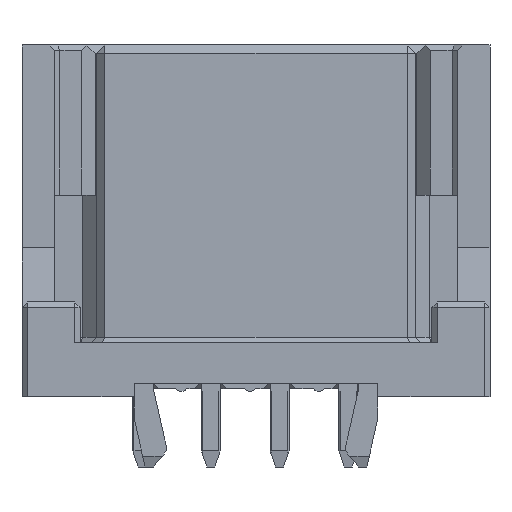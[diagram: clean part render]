
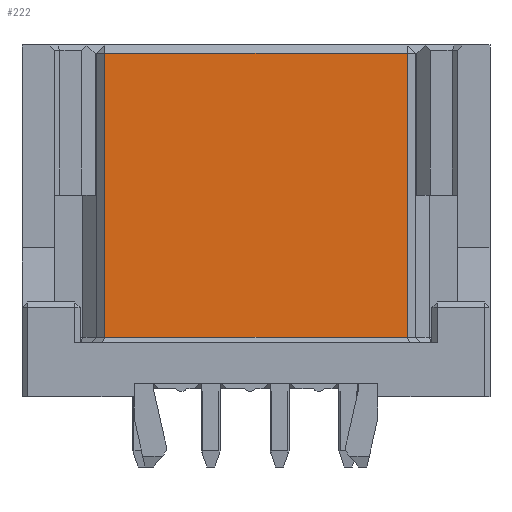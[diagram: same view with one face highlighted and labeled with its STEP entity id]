
A CAD part, front view. The second image highlights one B-rep face of the part: STEP entity #222.
In plain terms, the highlighted planar face has unit normal (0, -1, 0).
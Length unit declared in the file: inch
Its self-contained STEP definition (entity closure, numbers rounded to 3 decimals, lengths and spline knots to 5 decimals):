
#222=ADVANCED_FACE('',(#1383),#809,.T.);
#809=PLANE('',#11634);
#1383=FACE_OUTER_BOUND('',#1975,.T.);
#1975=EDGE_LOOP('',(#2898,#2899,#2900,#2901));
#2898=ORIENTED_EDGE('',*,*,#7154,.T.);
#2899=ORIENTED_EDGE('',*,*,#7155,.T.);
#2900=ORIENTED_EDGE('',*,*,#7156,.T.);
#2901=ORIENTED_EDGE('',*,*,#7157,.T.);
#6090=VERTEX_POINT('',#15739);
#6091=VERTEX_POINT('',#15740);
#6092=VERTEX_POINT('',#15742);
#6093=VERTEX_POINT('',#15744);
#7154=EDGE_CURVE('',#6090,#6091,#8746,.T.);
#7155=EDGE_CURVE('',#6091,#6092,#8747,.T.);
#7156=EDGE_CURVE('',#6092,#6093,#8748,.T.);
#7157=EDGE_CURVE('',#6093,#6090,#8749,.T.);
#8746=LINE('',#15738,#10323);
#8747=LINE('',#15741,#10324);
#8748=LINE('',#15743,#10325);
#8749=LINE('',#15745,#10326);
#10323=VECTOR('',#12587,1.);
#10324=VECTOR('',#12588,1.);
#10325=VECTOR('',#12589,1.);
#10326=VECTOR('',#12590,1.);
#11634=AXIS2_PLACEMENT_3D('',#15746,#12591,#12592);
#12587=DIRECTION('',(0.,0.,-1.));
#12588=DIRECTION('',(1.,0.,0.));
#12589=DIRECTION('',(0.,0.,1.));
#12590=DIRECTION('',(-1.,0.,0.));
#12591=DIRECTION('',(0.,-1.,0.));
#12592=DIRECTION('',(-1.,0.,0.));
#15738=CARTESIAN_POINT('',(0.10433,0.03346,0.21654));
#15739=CARTESIAN_POINT('',(0.10433,0.03346,0.42126));
#15740=CARTESIAN_POINT('',(0.10433,0.03346,0.00787));
#15741=CARTESIAN_POINT('',(0.54528,0.03346,0.00787));
#15742=CARTESIAN_POINT('',(0.54528,0.03346,0.00787));
#15743=CARTESIAN_POINT('',(0.54528,0.03346,0.21654));
#15744=CARTESIAN_POINT('',(0.54528,0.03346,0.42126));
#15745=CARTESIAN_POINT('',(0.3248,0.03346,0.42126));
#15746=CARTESIAN_POINT('',(0.3248,0.03346,0.21654));
